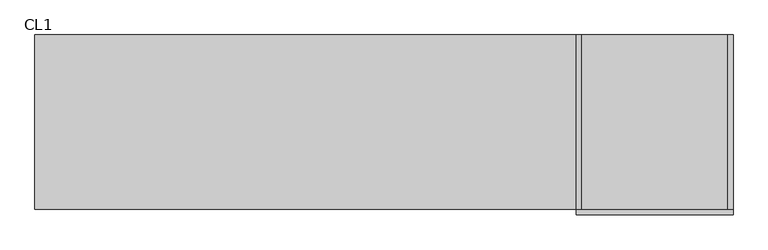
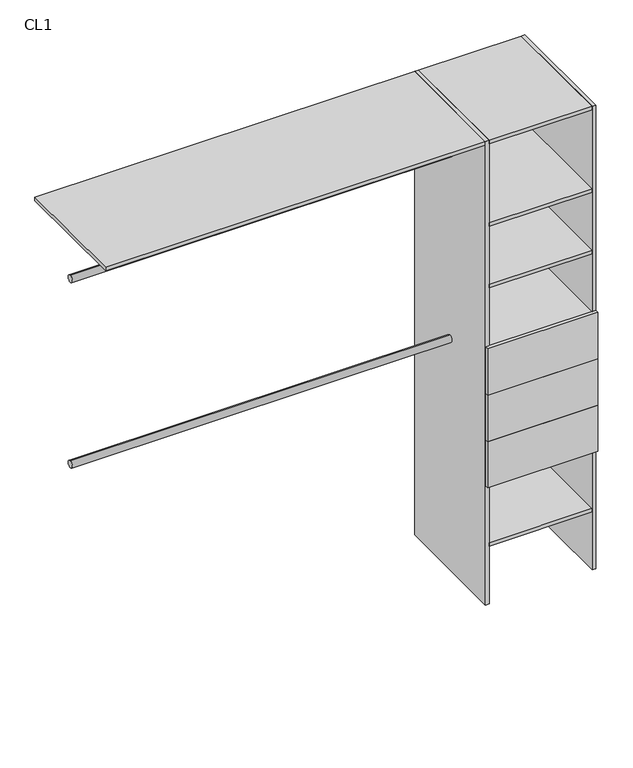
"""IFC4 building model written with IfcOpenShell, lengths in millimetres: furniture geometry, Closet 1estantes-1tubos_sin laterales : CL1."""

from ifc_helpers import new_model, si_unit, point, frame, frame_2d, origin, origin_with_axes, place, context, project, spatial, polyline, circle_curve, trimmed, segment, composite_curve, outline, extrude, source, transform, mapped, element, save


def cl1_46ce2ac3(model_context):
    return source(origin(), model_context, "Body", "SweptSolid", [
        extrude(outline(polyline([(225.0, 100.0), (210.0, 100.0), (210.0, 600.0), (225.0, 600.0), (225.0, 100.0)])), origin_with_axes(), (0.0, 0.0, 1.0), 2000.0),
        extrude(outline(polyline([(-210.0, 100.0), (-225.0, 100.0), (-225.0, 600.0), (-210.0, 600.0), (-210.0, 100.0)])), origin_with_axes(), (0.0, 0.0, 1.0), 2000.0),
        extrude(outline(polyline([(225.0, 100.0), (225.0, 85.0), (-225.0, 85.0), (-225.0, 100.0), (225.0, 100.0)])), frame((0.0, 0.0, 915.0), z_axis=(0.0, 0.0, 1.0), x_axis=(1.0, 0.0, 0.0)), (0.0, 0.0, 1.0), 200.0),
        extrude(outline(polyline([(225.0, 100.0), (225.0, 85.0), (-225.0, 85.0), (-225.0, 100.0), (225.0, 100.0)])), frame((0.0, 0.0, 715.0), z_axis=(0.0, 0.0, 1.0), x_axis=(1.0, 0.0, 0.0)), (0.0, 0.0, 1.0), 200.0),
        extrude(outline(polyline([(225.0, 100.0), (225.0, 85.0), (-225.0, 85.0), (-225.0, 100.0), (225.0, 100.0)])), frame((0.0, 0.0, 515.0), z_axis=(0.0, 0.0, 1.0), x_axis=(1.0, 0.0, 0.0)), (0.0, 0.0, 1.0), 200.0),
        extrude(outline(polyline([(210.0, 100.0), (-210.0, 100.0), (-210.0, 600.0), (210.0, 600.0), (210.0, 100.0)])), frame((0.0, 0.0, 1100.0), z_axis=(0.0, 0.0, 1.0), x_axis=(1.0, 0.0, 0.0)), (0.0, 0.0, 1.0), 15.0),
        extrude(outline(composite_curve([segment(trimmed(circle_curve(frame_2d((350.0, 1000.0)), 15.0), [point((350.0, 1015.0))], [point((350.0, 985.0))], False, "CARTESIAN"), True, "CONTINUOUS"), segment(trimmed(circle_curve(frame_2d((350.0, 1000.0)), 15.0), [point((350.0, 985.0))], [point((350.0, 1015.0))], False, "CARTESIAN"), True, "CONTINUOUS")], self_intersect=False)), frame((-1775.1, 0.0, 0.0), z_axis=(1.0, 0.0, 0.0), x_axis=(0.0, 1.0, 0.0)), (0.0, 0.0, 1.0), 1550.1),
        extrude(outline(composite_curve([segment(trimmed(circle_curve(frame_2d((350.0, 1800.0)), 15.0), [point((350.0, 1815.0))], [point((350.0, 1785.0))], False, "CARTESIAN"), True, "CONTINUOUS"), segment(trimmed(circle_curve(frame_2d((350.0, 1800.0)), 15.0), [point((350.0, 1785.0))], [point((350.0, 1815.0))], False, "CARTESIAN"), True, "CONTINUOUS")], self_intersect=False)), frame((-1775.1, 0.0, 0.0), z_axis=(1.0, 0.0, 0.0), x_axis=(0.0, 1.0, 0.0)), (0.0, 0.0, 1.0), 1550.1),
        extrude(outline(polyline([(210.0, 100.0), (-210.0, 100.0), (-210.0, 600.0), (210.0, 600.0), (210.0, 100.0)])), frame((0.0, 0.0, 250.0), z_axis=(0.0, 0.0, 1.0), x_axis=(1.0, 0.0, 0.0)), (0.0, 0.0, 1.0), 15.0),
        extrude(outline(polyline([(210.0, 100.0), (-210.0, 100.0), (-210.0, 600.0), (210.0, 600.0), (210.0, 100.0)])), frame((0.0, 0.0, 515.0), z_axis=(0.0, 0.0, 1.0), x_axis=(1.0, 0.0, 0.0)), (0.0, 0.0, 1.0), 15.0),
        extrude(outline(polyline([(210.0, 100.0), (-210.0, 100.0), (-210.0, 600.0), (210.0, 600.0), (210.0, 100.0)])), frame((0.0, 0.0, 1365.0), z_axis=(0.0, 0.0, 1.0), x_axis=(1.0, 0.0, 0.0)), (0.0, 0.0, 1.0), 15.0),
        extrude(outline(polyline([(210.0, 100.0), (-210.0, 100.0), (-210.0, 600.0), (210.0, 600.0), (210.0, 100.0)])), frame((0.0, 0.0, 1630.0), z_axis=(0.0, 0.0, 1.0), x_axis=(1.0, 0.0, 0.0)), (0.0, 0.0, 1.0), 15.0),
        extrude(outline(polyline([(-210.0, 100.0), (-1775.1, 100.0), (-1775.1, 600.0), (-210.0, 600.0), (-210.0, 100.0)])), frame((0.0, 0.0, 1985.0), z_axis=(0.0, 0.0, 1.0), x_axis=(1.0, 0.0, 0.0)), (0.0, 0.0, 1.0), 15.0),
        extrude(outline(polyline([(210.0, 100.0), (-210.0, 100.0), (-210.0, 600.0), (210.0, 600.0), (210.0, 100.0)])), frame((0.0, 0.0, 1985.0), z_axis=(0.0, 0.0, 1.0), x_axis=(1.0, 0.0, 0.0)), (0.0, 0.0, 1.0), 15.0),
    ])


if __name__ == "__main__":
    model = new_model("IFC4")
    model_context = context("Model", 3, world=origin())
    ifc_project = project(units=[si_unit("LENGTHUNIT", "METRE", prefix="MILLI")], contexts=[model_context])
    site = spatial("IfcSite", under=ifc_project)
    building = spatial("IfcBuilding", under=site)
    placement = place(None, origin())
    cl1_shape = cl1_46ce2ac3(model_context)
    element("IfcFurniture", 1, ObjectType="Closet 1estantes-1tubos_sin laterales : CL1", at=placement, inside=building, context=model_context, shape_type="MappedRepresentation", body=[
        mapped(cl1_shape, transform((0.0, 0.0, 0.0), x_axis=(1.0, 0.0, 0.0), y_axis=(0.0, 1.0, 0.0), z_axis=(0.0, 0.0, 1.0))),
    ])
    save(model, "model.ifc")
